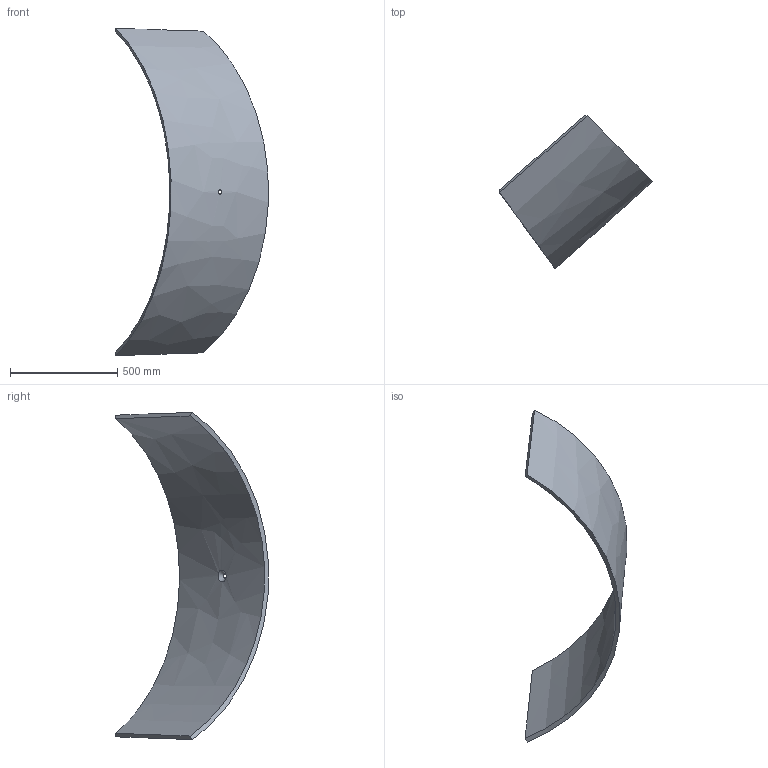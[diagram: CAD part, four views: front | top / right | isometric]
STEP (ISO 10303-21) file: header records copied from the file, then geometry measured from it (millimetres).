
FILE_DESCRIPTION (( 'STEP AP214' ), '1' );
FILE_NAME ('P9.1.STEP', '2025-01-09T19:43:29', ( '' ), ( '' ), 'SwSTEP 2.0', 'SolidWorks 2024', '' );
FILE_SCHEMA (( 'AUTOMOTIVE_DESIGN' ));
Length unit declared in the file: inch
Products named in the file (1): P9.1
Bounding box: 711.79 x 712.96 x 1524.35 mm (x, y, z)
Volume: 19866420.7 mm3; surface area: 2183230.4 mm2
Topology: 1 solids, 1 shells, 8 faces, 17 edges, 11 vertices
Faces by surface type: bspline 7, cylinder 1
Full cylindrical faces by diameter (mm): 19.431 x1
Entity records: 2300 total; most frequent: CARTESIAN_POINT 2152, ORIENTED_EDGE 30, EDGE_CURVE 15, B_SPLINE_CURVE_WITH_KNOTS 15, EDGE_LOOP 12, VERTEX_POINT 11, FACE_OUTER_BOUND 10, ADVANCED_FACE 8
